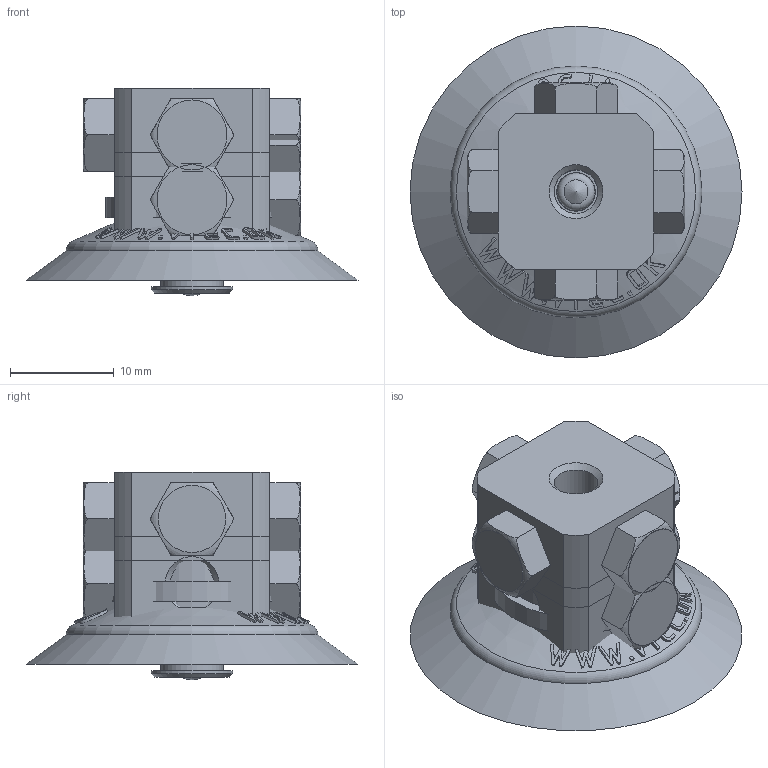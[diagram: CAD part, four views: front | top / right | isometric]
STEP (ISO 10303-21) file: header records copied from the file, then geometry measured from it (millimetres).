
FILE_DESCRIPTION( ( 'Unknown' ), '1' );
FILE_NAME( 'C:/Documents and Settings/owner/官帕 拳搁/MISUMI/PAD/VF/VF30-N-M5X5F-BV.stp', 'Unknown', ( 'Unknown' ), ( 'Unknown' ), 'XStep 1.0', 'Unknown', ' ' );
FILE_SCHEMA( ( 'automotive_design' ) );
Length unit declared in the file: millimetre
Products named in the file (5): Assem1; 1_4; 2_3; M5; VF20 25 30 BV
Bounding box: 32 x 32 x 20 mm (x, y, z)
Volume: 9244.1 mm3; surface area: 8616.4 mm2
Topology: 8 solids, 8 shells, 544 faces, 1330 edges, 884 vertices
Faces by surface type: plane 264, bspline 112, cylinder 68, cone 58, extrusion 28, revolution 8, torus 4, sphere 2
Full cylindrical faces by diameter (mm): 2.3 x2, 3.6 x2, 4.2 x4, 4.4 x2, 4.6 x2, 5 x6, 6 x6, 6.4 x2, 6.471 x4, 6.568 x2, 6.742 x2, 7 x2, 7.9 x2, 14.6 x2, 15 x2, 16.6 x2
Entity records: 14341 total; most frequent: CARTESIAN_POINT 7405, ORIENTED_EDGE 1200, DIRECTION 752, EDGE_CURVE 600, VERTEX_POINT 422, B_SPLINE_CURVE_WITH_KNOTS 372, EDGE_LOOP 363, FACE_OUTER_BOUND 303
